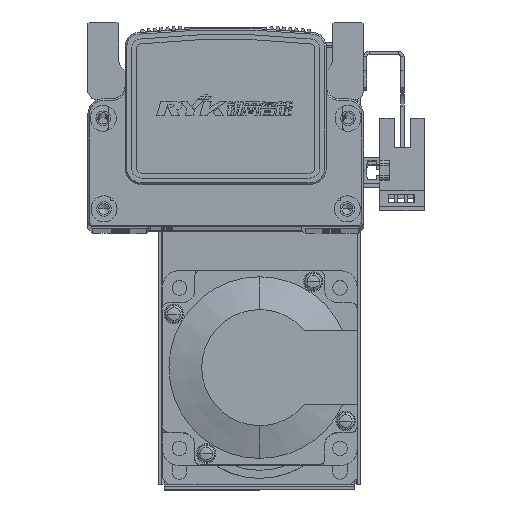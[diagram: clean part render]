
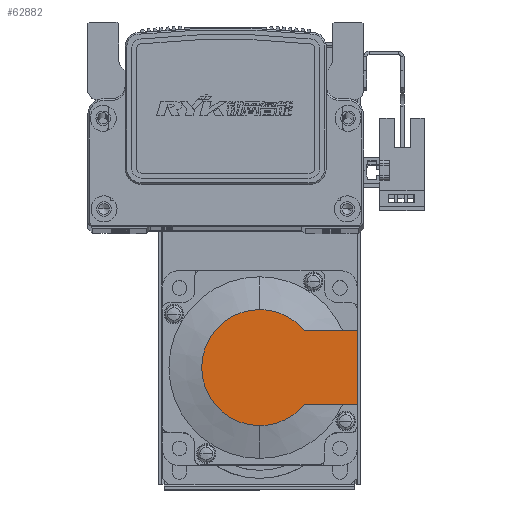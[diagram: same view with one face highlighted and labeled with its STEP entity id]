
A CAD part, top view. The second image highlights one B-rep face of the part: STEP entity #62882.
In plain terms, the highlighted planar face has unit normal (0, 0, 1) as drawn and (-1, 0, 0) by its records, which use the part's own axes.
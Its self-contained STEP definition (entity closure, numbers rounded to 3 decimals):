
#10771 = CIRCLE ( 'NONE', #30860, 17.881 ) ;
#10812 = LINE ( 'NONE', #71158, #10814 ) ;
#10814 = VECTOR ( 'NONE', #71159, 1000. ) ;
#10873 = VECTOR ( 'NONE', #71255, 1000. ) ;
#10882 = LINE ( 'NONE', #71274, #10873 ) ;
#10885 = LINE ( 'NONE', #71265, #10899 ) ;
#10899 = VECTOR ( 'NONE', #71249, 1000. ) ;
#11464 = AXIS2_PLACEMENT_3D ( 'NONE', #18733, #18728, #18730 ) ;
#15005 = DIRECTION ( 'NONE',  ( 0., 0., -1. ) ) ;
#15036 = CARTESIAN_POINT ( 'NONE',  ( -99., 0., 0. ) ) ;
#15049 = DIRECTION ( 'NONE',  ( -1., 0., 0. ) ) ;
#15936 = DIRECTION ( 'NONE',  ( -1., 0., 0. ) ) ;
#15955 = CARTESIAN_POINT ( 'NONE',  ( -99., 0., 0. ) ) ;
#15971 = DIRECTION ( 'NONE',  ( 0., 0., -1. ) ) ;
#18699 = PLANE ( 'NONE',  #11464 ) ;
#18728 = DIRECTION ( 'NONE',  ( -1., 0., 0. ) ) ;
#18730 = DIRECTION ( 'NONE',  ( 0., 0., 1. ) ) ;
#18733 = CARTESIAN_POINT ( 'NONE',  ( -99., -8.941, 0. ) ) ;
#18785 = CIRCLE ( 'NONE', #30785, 17.881 ) ;
#19931 = CIRCLE ( 'NONE', #30687, 17.881 ) ;
#25855 = FACE_OUTER_BOUND ( 'NONE', #61725, .T. ) ;
#30687 = AXIS2_PLACEMENT_3D ( 'NONE', #15955, #15936, #15971 ) ;
#30785 = AXIS2_PLACEMENT_3D ( 'NONE', #15036, #15049, #15005 ) ;
#30860 = AXIS2_PLACEMENT_3D ( 'NONE', #71091, #71092, #71080 ) ;
#35130 = EDGE_CURVE ( 'NONE', #54766, #54692, #19931, .T. ) ;
#35154 = EDGE_CURVE ( 'NONE', #54742, #54766, #18785, .T. ) ;
#35431 = EDGE_CURVE ( 'NONE', #54959, #54742, #10771, .T. ) ;
#35476 = EDGE_CURVE ( 'NONE', #54956, #54692, #10812, .T. ) ;
#35504 = EDGE_CURVE ( 'NONE', #55009, #54956, #10885, .T. ) ;
#35512 = EDGE_CURVE ( 'NONE', #55009, #54959, #10882, .T. ) ;
#35986 = ORIENTED_EDGE ( 'NONE', *, *, #35130, .T. ) ;
#35991 = ORIENTED_EDGE ( 'NONE', *, *, #35431, .T. ) ;
#36013 = ORIENTED_EDGE ( 'NONE', *, *, #35154, .T. ) ;
#36032 = ORIENTED_EDGE ( 'NONE', *, *, #35512, .T. ) ;
#36070 = ORIENTED_EDGE ( 'NONE', *, *, #35504, .F. ) ;
#36075 = ORIENTED_EDGE ( 'NONE', *, *, #35476, .F. ) ;
#43799 = CARTESIAN_POINT ( 'NONE',  ( -99., 13.735, 11.45 ) ) ;
#43834 = CARTESIAN_POINT ( 'NONE',  ( -99., 0., -17.881 ) ) ;
#43895 = CARTESIAN_POINT ( 'NONE',  ( -99., 0., 17.881 ) ) ;
#43926 = CARTESIAN_POINT ( 'NONE',  ( -99., 13.735, -11.45 ) ) ;
#43964 = CARTESIAN_POINT ( 'NONE',  ( -99., 30., 11.45 ) ) ;
#44002 = CARTESIAN_POINT ( 'NONE',  ( -99., 30., -11.45 ) ) ;
#54692 = VERTEX_POINT ( 'NONE', #43799 ) ;
#54742 = VERTEX_POINT ( 'NONE', #43834 ) ;
#54766 = VERTEX_POINT ( 'NONE', #43895 ) ;
#54956 = VERTEX_POINT ( 'NONE', #43964 ) ;
#54959 = VERTEX_POINT ( 'NONE', #43926 ) ;
#55009 = VERTEX_POINT ( 'NONE', #44002 ) ;
#61725 = EDGE_LOOP ( 'NONE', ( #36032, #35991, #36013, #35986, #36075, #36070 ) ) ;
#62882 = ADVANCED_FACE ( 'NONE', ( #25855 ), #18699, .T. ) ;
#71080 = DIRECTION ( 'NONE',  ( 0., 0., -1. ) ) ;
#71091 = CARTESIAN_POINT ( 'NONE',  ( -99., 0., 0. ) ) ;
#71092 = DIRECTION ( 'NONE',  ( -1., 0., 0. ) ) ;
#71158 = CARTESIAN_POINT ( 'NONE',  ( -99., 0., 11.45 ) ) ;
#71159 = DIRECTION ( 'NONE',  ( 0., -1., 0. ) ) ;
#71249 = DIRECTION ( 'NONE',  ( 0., 0., 1. ) ) ;
#71255 = DIRECTION ( 'NONE',  ( 0., -1., 0. ) ) ;
#71265 = CARTESIAN_POINT ( 'NONE',  ( -99., 30., 25. ) ) ;
#71274 = CARTESIAN_POINT ( 'NONE',  ( -99., -8.941, -11.45 ) ) ;
